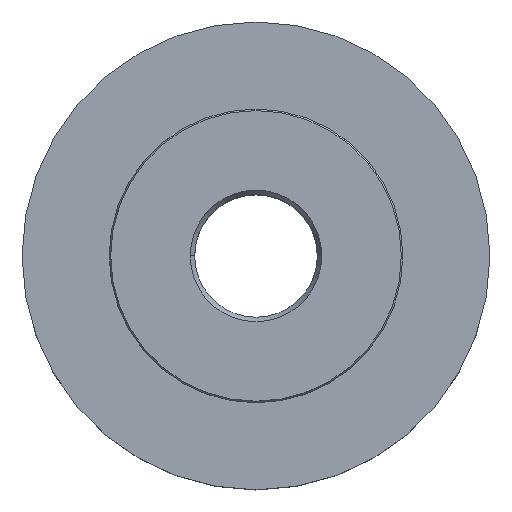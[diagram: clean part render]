
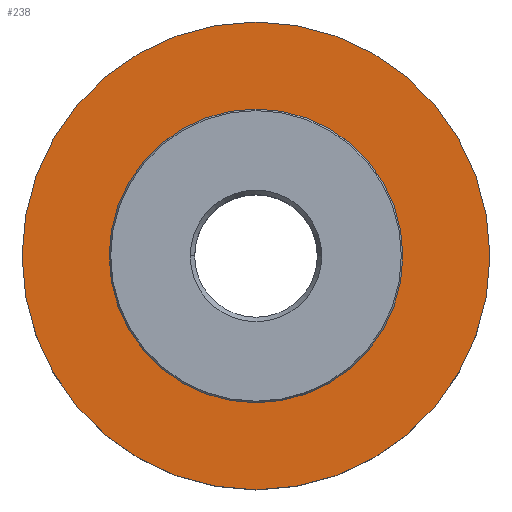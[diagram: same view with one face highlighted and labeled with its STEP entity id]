
A CAD part, top view. The second image highlights one B-rep face of the part: STEP entity #238.
In plain terms, the highlighted planar face has unit normal (0, 0, 1).
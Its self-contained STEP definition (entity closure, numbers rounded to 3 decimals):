
#238=ADVANCED_FACE('',(#491,#492),#493,.T.);
#491=FACE_BOUND('',#750,.T.);
#492=FACE_OUTER_BOUND('',#751,.T.);
#493=PLANE('',#752);
#750=EDGE_LOOP('',(#1370,#1371));
#751=EDGE_LOOP('',(#1372,#1373));
#752=AXIS2_PLACEMENT_3D('',#1374,#1375,#1376);
#1370=ORIENTED_EDGE('',*,*,#1473,.F.);
#1371=ORIENTED_EDGE('',*,*,#1688,.F.);
#1372=ORIENTED_EDGE('',*,*,#1470,.T.);
#1373=ORIENTED_EDGE('',*,*,#1692,.T.);
#1374=CARTESIAN_POINT('',(11.0,0.0,13.8));
#1375=DIRECTION('',(0.0,0.0,1.0));
#1376=DIRECTION('',(1.0,0.0,0.0));
#1470=EDGE_CURVE('',#1727,#1731,#1733,.T.);
#1473=EDGE_CURVE('',#1735,#1738,#1739,.T.);
#1688=EDGE_CURVE('',#1738,#1735,#2048,.T.);
#1692=EDGE_CURVE('',#1731,#1727,#2052,.T.);
#1727=VERTEX_POINT('',#2099);
#1731=VERTEX_POINT('',#2104);
#1733=CIRCLE('',#2107,15.25);
#1735=VERTEX_POINT('',#2109);
#1738=VERTEX_POINT('',#2113);
#1739=CIRCLE('',#2114,9.575);
#2048=CIRCLE('',#2696,9.575);
#2052=CIRCLE('',#2700,15.25);
#2099=CARTESIAN_POINT('',(15.25,0.0,13.8));
#2104=CARTESIAN_POINT('',(-15.25,0.,13.8));
#2107=AXIS2_PLACEMENT_3D('',#2754,#2755,#2756);
#2109=CARTESIAN_POINT('',(9.575,0.0,13.8));
#2113=CARTESIAN_POINT('',(-9.575,0.,13.8));
#2114=AXIS2_PLACEMENT_3D('',#2758,#2759,#2760);
#2696=AXIS2_PLACEMENT_3D('',#2991,#2992,#2993);
#2700=AXIS2_PLACEMENT_3D('',#2997,#2998,#2999);
#2754=CARTESIAN_POINT('',(0.0,0.0,13.8));
#2755=DIRECTION('',(0.0,0.0,1.0));
#2756=DIRECTION('',(1.0,0.0,0.0));
#2758=CARTESIAN_POINT('',(0.0,0.0,13.8));
#2759=DIRECTION('',(0.0,0.0,1.0));
#2760=DIRECTION('',(1.0,0.0,0.0));
#2991=CARTESIAN_POINT('',(0.0,0.0,13.8));
#2992=DIRECTION('',(0.0,0.0,1.0));
#2993=DIRECTION('',(1.0,0.0,0.0));
#2997=CARTESIAN_POINT('',(0.0,0.0,13.8));
#2998=DIRECTION('',(0.0,0.0,1.0));
#2999=DIRECTION('',(1.0,0.0,0.0));
